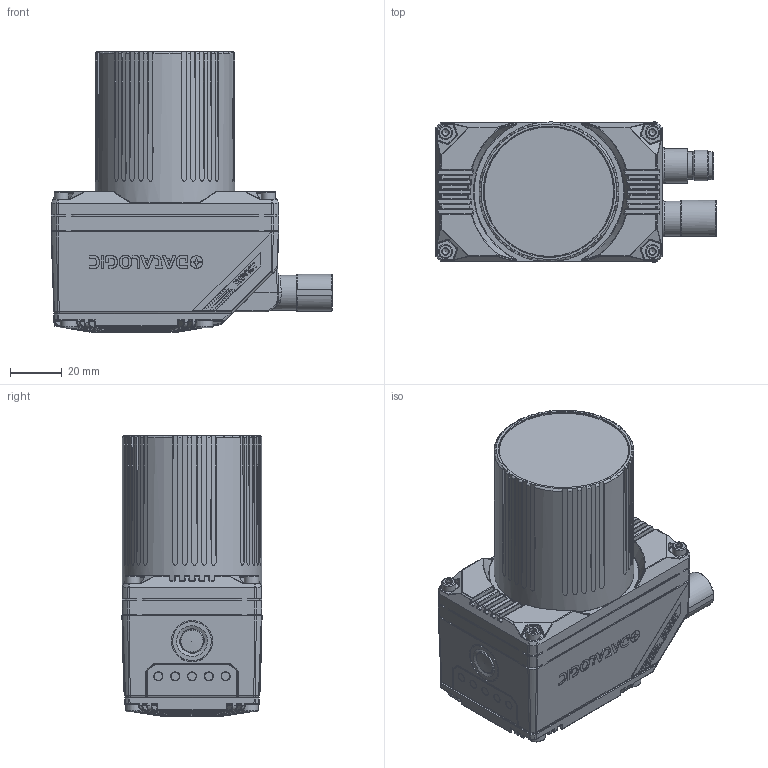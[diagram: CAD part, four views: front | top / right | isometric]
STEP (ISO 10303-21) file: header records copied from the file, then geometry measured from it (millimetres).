
FILE_DESCRIPTION(/* description */ (''),/* implementation_level */ '2;1');
FILE_NAME(/* name */ 'AP035914_00-P2X C-Mount bicchiere corto 0_.stp',/* time_stamp */ '2022-03-16T16:37:21+01:00',/* author */ (''),/* organization */ (''),/* preprocessor_version */ 'ST-DEVELOPER v16.7',/* originating_system */ 'SIEMENS PLM Software NX 1946',/* authorisation */ '');
FILE_SCHEMA (('AUTOMOTIVE_DESIGN { 1 0 10303 214 3 1 1 1 }'));
Products named in the file (1): FGutB01403CDtyyc
Bounding box: 108.95 x 54.2 x 108.3 mm (x, y, z)
Volume: 352919.1 mm3; surface area: 50129.7 mm2
Topology: 1 solids, 14 shells, 3200 faces, 7595 edges, 4421 vertices
Faces by surface type: plane 1272, cylinder 865, bspline 451, torus 187, cone 171, sphere 170, extrusion 84
Full cylindrical faces by diameter (mm): 0.6 x7, 3.2 x5, 3.3 x9, 3.5 x5, 5.5 x4, 6.2 x4, 7 x3, 9.5 x2, 10.5 x1, 10.7 x1, 10.8 x1, 11.15 x1, 11.85 x1, 12.2 x1, 13.5 x2, 14 x1, 15 x1, 16 x1, 46 x1, 48 x1, 50 x1, 50.2 x1, 50.4 x1, 54 x1
Entity records: 120907 total; most frequent: CARTESIAN_POINT 44050, ORIENTED_EDGE 14456, DIRECTION 13876, EDGE_CURVE 7228, AXIS2_PLACEMENT_3D 5361, VERTEX_POINT 4375, EDGE_LOOP 3542, ADVANCED_FACE 3197
